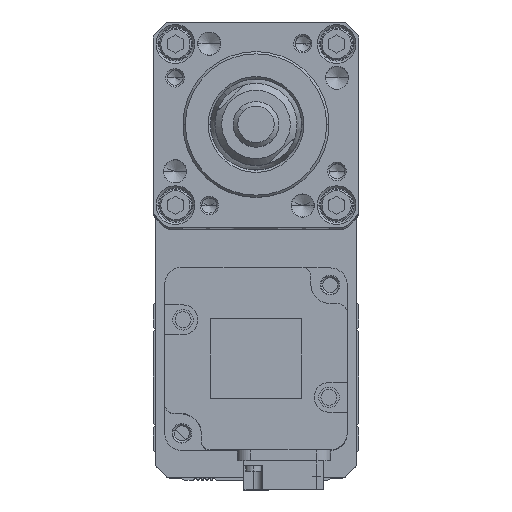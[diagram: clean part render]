
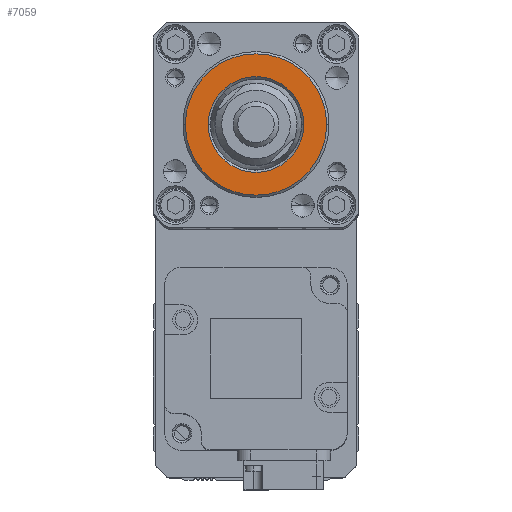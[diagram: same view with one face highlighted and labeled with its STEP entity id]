
A CAD part, top view. The second image highlights one B-rep face of the part: STEP entity #7059.
In plain terms, the highlighted planar face has unit normal (0, 0, 1).
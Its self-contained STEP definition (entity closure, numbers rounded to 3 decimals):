
#411 = EDGE_LOOP ( 'NONE', ( #22021, #18011 ) ) ;
#1427 = DIRECTION ( 'NONE',  ( 0., 0., 1. ) ) ;
#2731 = CARTESIAN_POINT ( 'NONE',  ( 0., 0., 257. ) ) ;
#3065 = CARTESIAN_POINT ( 'NONE',  ( 10.5, 0., 257. ) ) ;
#3254 = ORIENTED_EDGE ( 'NONE', *, *, #24830, .T. ) ;
#3837 = VERTEX_POINT ( 'NONE', #3065 ) ;
#4689 = FACE_OUTER_BOUND ( 'NONE', #411, .T. ) ;
#5268 = DIRECTION ( 'NONE',  ( 1., 0., 0. ) ) ;
#5536 = ORIENTED_EDGE ( 'NONE', *, *, #5767, .T. ) ;
#5767 = EDGE_CURVE ( 'NONE', #3837, #18868, #14068, .T. ) ;
#6334 = EDGE_CURVE ( 'NONE', #30810, #10858, #15781, .T. ) ;
#7059 = ADVANCED_FACE ( 'NONE', ( #11408, #4689 ), #8696, .T. ) ;
#7190 = DIRECTION ( 'NONE',  ( 0., 0., 1. ) ) ;
#8696 = PLANE ( 'NONE',  #8869 ) ;
#8869 = AXIS2_PLACEMENT_3D ( 'NONE', #21197, #28773, #13766 ) ;
#10858 = VERTEX_POINT ( 'NONE', #14043 ) ;
#11180 = AXIS2_PLACEMENT_3D ( 'NONE', #2731, #20307, #5268 ) ;
#11408 = FACE_BOUND ( 'NONE', #26065, .T. ) ;
#13766 = DIRECTION ( 'NONE',  ( 1., 0., 0. ) ) ;
#14043 = CARTESIAN_POINT ( 'NONE',  ( 15.5, 0., 257. ) ) ;
#14068 = CIRCLE ( 'NONE', #14333, 10.5 ) ;
#14333 = AXIS2_PLACEMENT_3D ( 'NONE', #14824, #32321, #17370 ) ;
#14824 = CARTESIAN_POINT ( 'NONE',  ( 0., 0., 257. ) ) ;
#15781 = CIRCLE ( 'NONE', #24843, 15.5 ) ;
#16534 = CARTESIAN_POINT ( 'NONE',  ( 0., 0., 257. ) ) ;
#17370 = DIRECTION ( 'NONE',  ( 1., 0., 0. ) ) ;
#18011 = ORIENTED_EDGE ( 'NONE', *, *, #18435, .T. ) ;
#18435 = EDGE_CURVE ( 'NONE', #10858, #30810, #29579, .T. ) ;
#18868 = VERTEX_POINT ( 'NONE', #28329 ) ;
#19028 = DIRECTION ( 'NONE',  ( 1., 0., 0. ) ) ;
#19865 = CARTESIAN_POINT ( 'NONE',  ( -15.5, 0., 257. ) ) ;
#20307 = DIRECTION ( 'NONE',  ( 0., 0., -1. ) ) ;
#21197 = CARTESIAN_POINT ( 'NONE',  ( 0., 0., 257. ) ) ;
#22021 = ORIENTED_EDGE ( 'NONE', *, *, #6334, .T. ) ;
#22240 = CARTESIAN_POINT ( 'NONE',  ( 0., 0., 257. ) ) ;
#23036 = CIRCLE ( 'NONE', #11180, 10.5 ) ;
#24769 = DIRECTION ( 'NONE',  ( 1., 0., 0. ) ) ;
#24830 = EDGE_CURVE ( 'NONE', #18868, #3837, #23036, .T. ) ;
#24843 = AXIS2_PLACEMENT_3D ( 'NONE', #22240, #7190, #24769 ) ;
#24867 = AXIS2_PLACEMENT_3D ( 'NONE', #16534, #1427, #19028 ) ;
#26065 = EDGE_LOOP ( 'NONE', ( #5536, #3254 ) ) ;
#28329 = CARTESIAN_POINT ( 'NONE',  ( -10.5, 0., 257. ) ) ;
#28773 = DIRECTION ( 'NONE',  ( 0., 0., 1. ) ) ;
#29579 = CIRCLE ( 'NONE', #24867, 15.5 ) ;
#30810 = VERTEX_POINT ( 'NONE', #19865 ) ;
#32321 = DIRECTION ( 'NONE',  ( 0., 0., -1. ) ) ;
